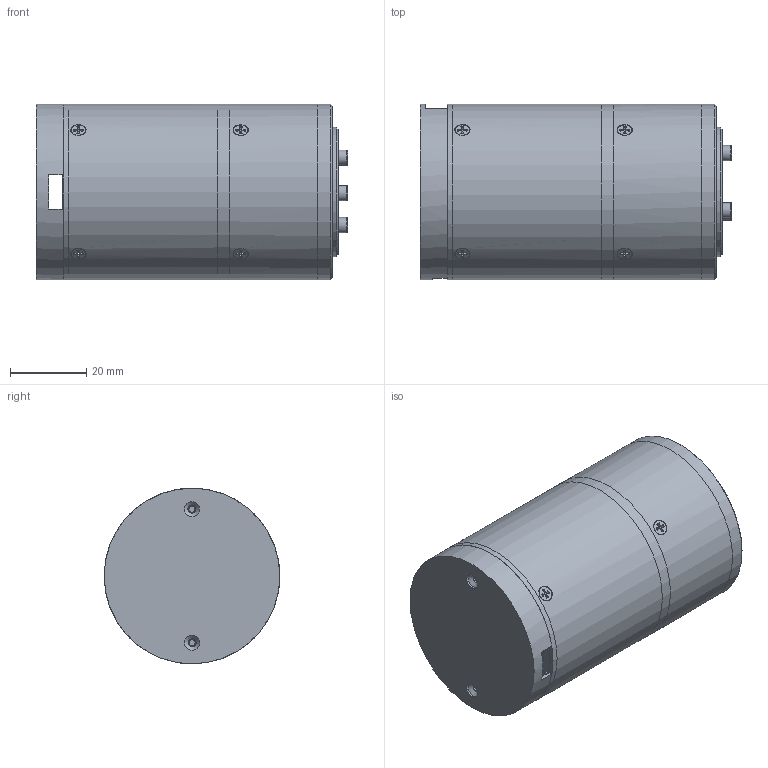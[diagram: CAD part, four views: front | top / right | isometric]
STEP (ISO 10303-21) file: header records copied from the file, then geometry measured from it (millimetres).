
FILE_DESCRIPTION(/* description */ (''),/* implementation_level */ '2;1');
FILE_NAME(/* name */ '',/* time_stamp */ '2024-11-08T22:23:37+08:00',/* author */ ('12505'),/* organization */ (''),/* preprocessor_version */ 'ST-DEVELOPER v19.2',/* originating_system */ 'Autodesk Inventor 2024',/* authorisation */ '');
FILE_SCHEMA (('CONFIG_CONTROL_DESIGN'));
Length unit declared in the file: millimetre
Products named in the file (3): 3510-64安装图; 3510-64_简化_1; V17驱动盖
Assembly tree (2 placements, depth 2):
  3510-64安装图
    3510-64_简化_1
    V17驱动盖
Bounding box: 81.5 x 46 x 46 mm (x, y, z)
Volume: 116948 mm3; surface area: 22152.7 mm2
Topology: 2 solids, 12 shells, 757 faces, 2049 edges, 1341 vertices
Faces by surface type: plane 274, cone 204, cylinder 180, torus 75, bspline 24
Full cylindrical faces by diameter (mm): 1.567 x6, 2.013 x8, 2.1 x2, 2.459 x6, 3 x1, 3.8 x16, 4 x21, 5 x1, 5.5 x3, 5.7 x3, 6 x1, 8 x1, 9 x2, 11 x1, 32 x1, 34 x1, 34.2 x1, 43 x1, 44 x2, 46 x3
Entity records: 27492 total; most frequent: CARTESIAN_POINT 8593, ORIENTED_EDGE 4052, DIRECTION 3581, EDGE_CURVE 2026, AXIS2_PLACEMENT_3D 1488, VERTEX_POINT 1341, EDGE_LOOP 837, FACE_OUTER_BOUND 757
